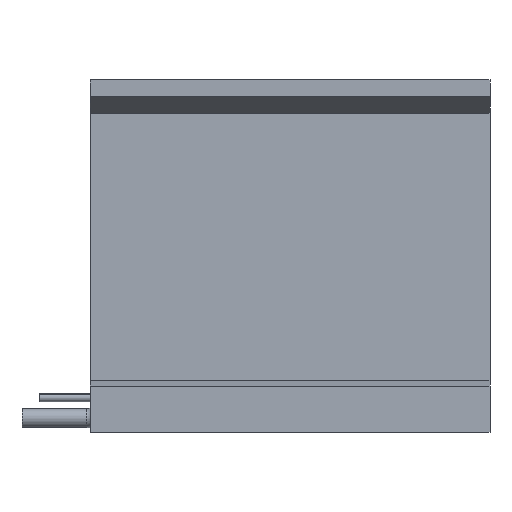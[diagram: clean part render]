
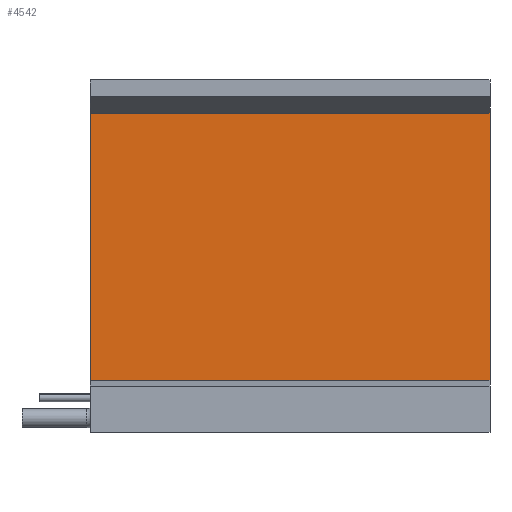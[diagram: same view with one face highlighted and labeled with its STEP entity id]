
A CAD part, left-side view. The second image highlights one B-rep face of the part: STEP entity #4542.
In plain terms, the highlighted planar face has unit normal (-1, 0, 0) as drawn and (1, 0, 0) by its records, which use the part's own axes.
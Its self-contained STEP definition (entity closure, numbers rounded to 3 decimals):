
#6 = VECTOR ( 'NONE', #2497, 1000. ) ;
#390 = VERTEX_POINT ( 'NONE', #5881 ) ;
#565 = LINE ( 'NONE', #4810, #1071 ) ;
#655 = FACE_OUTER_BOUND ( 'NONE', #3131, .T. ) ;
#882 = AXIS2_PLACEMENT_3D ( 'NONE', #1544, #2894, #3410 ) ;
#1071 = VECTOR ( 'NONE', #1515, 1000. ) ;
#1432 = LINE ( 'NONE', #4387, #2133 ) ;
#1515 = DIRECTION ( 'NONE',  ( 0., 0., -1. ) ) ;
#1544 = CARTESIAN_POINT ( 'NONE',  ( 21.35, 17.11, 205. ) ) ;
#1615 = VERTEX_POINT ( 'NONE', #4440 ) ;
#1990 = CARTESIAN_POINT ( 'NONE',  ( 21.35, 17.11, 0. ) ) ;
#2029 = ORIENTED_EDGE ( 'NONE', *, *, #5776, .F. ) ;
#2133 = VECTOR ( 'NONE', #5338, 1000. ) ;
#2218 = VERTEX_POINT ( 'NONE', #1990 ) ;
#2497 = DIRECTION ( 'NONE',  ( 0., 1., 0. ) ) ;
#2780 = CARTESIAN_POINT ( 'NONE',  ( 21.35, 17.11, 205. ) ) ;
#2894 = DIRECTION ( 'NONE',  ( -1., 0., 0. ) ) ;
#3069 = EDGE_CURVE ( 'NONE', #3985, #390, #3172, .T. ) ;
#3131 = EDGE_LOOP ( 'NONE', ( #3661, #2029, #4510, #3141 ) ) ;
#3141 = ORIENTED_EDGE ( 'NONE', *, *, #4499, .T. ) ;
#3172 = LINE ( 'NONE', #2780, #4459 ) ;
#3410 = DIRECTION ( 'NONE',  ( 0., 0., 1. ) ) ;
#3661 = ORIENTED_EDGE ( 'NONE', *, *, #5680, .T. ) ;
#3985 = VERTEX_POINT ( 'NONE', #5920 ) ;
#4085 = LINE ( 'NONE', #5954, #6 ) ;
#4387 = CARTESIAN_POINT ( 'NONE',  ( 21.35, 154.11, 205. ) ) ;
#4440 = CARTESIAN_POINT ( 'NONE',  ( 21.35, 154.11, 0. ) ) ;
#4459 = VECTOR ( 'NONE', #6048, 1000. ) ;
#4499 = EDGE_CURVE ( 'NONE', #3985, #2218, #565, .T. ) ;
#4510 = ORIENTED_EDGE ( 'NONE', *, *, #3069, .F. ) ;
#4542 = ADVANCED_FACE ( 'NONE', ( #655 ), #5762, .F. ) ;
#4810 = CARTESIAN_POINT ( 'NONE',  ( 21.35, 17.11, 205. ) ) ;
#5338 = DIRECTION ( 'NONE',  ( 0., 0., -1. ) ) ;
#5680 = EDGE_CURVE ( 'NONE', #2218, #1615, #4085, .T. ) ;
#5762 = PLANE ( 'NONE',  #882 ) ;
#5776 = EDGE_CURVE ( 'NONE', #390, #1615, #1432, .T. ) ;
#5881 = CARTESIAN_POINT ( 'NONE',  ( 21.35, 154.11, 205. ) ) ;
#5920 = CARTESIAN_POINT ( 'NONE',  ( 21.35, 17.11, 205. ) ) ;
#5954 = CARTESIAN_POINT ( 'NONE',  ( 21.35, 17.11, 0. ) ) ;
#6048 = DIRECTION ( 'NONE',  ( 0., 1., 0. ) ) ;
